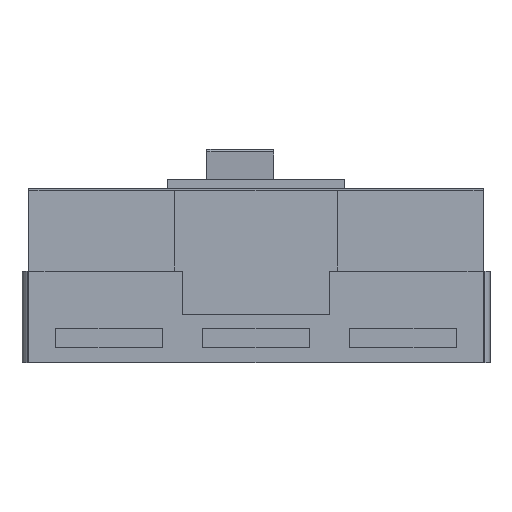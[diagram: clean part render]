
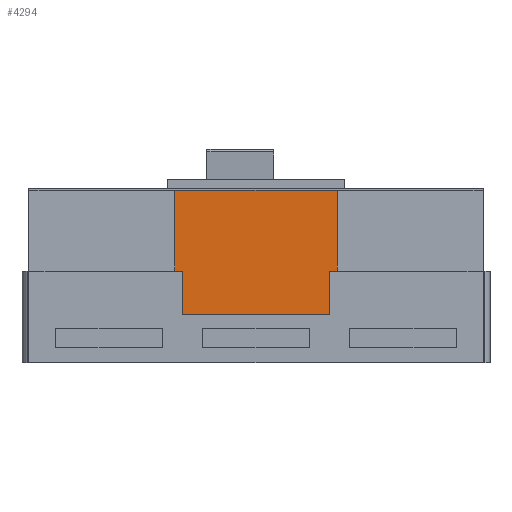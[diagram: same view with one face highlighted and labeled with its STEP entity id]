
A CAD part, front view. The second image highlights one B-rep face of the part: STEP entity #4294.
In plain terms, the highlighted planar face has unit normal (0, -1, 0).
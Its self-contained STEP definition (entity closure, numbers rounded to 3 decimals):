
#19 = EDGE_CURVE ( 'NONE', #3581, #639, #765, .T. ) ;
#26 = VERTEX_POINT ( 'NONE', #1045 ) ;
#131 = EDGE_CURVE ( 'NONE', #239, #4152, #1258, .T. ) ;
#224 = AXIS2_PLACEMENT_3D ( 'NONE', #3107, #1422, #3796 ) ;
#239 = VERTEX_POINT ( 'NONE', #4334 ) ;
#529 = CARTESIAN_POINT ( 'NONE',  ( 143.7, 48.3, 86. ) ) ;
#562 = FACE_OUTER_BOUND ( 'NONE', #2921, .T. ) ;
#619 = DIRECTION ( 'NONE',  ( 0., 0., 1. ) ) ;
#639 = VERTEX_POINT ( 'NONE', #529 ) ;
#659 = CARTESIAN_POINT ( 'NONE',  ( 288.5, 48.3, 161.8 ) ) ;
#718 = ORIENTED_EDGE ( 'NONE', *, *, #2791, .T. ) ;
#748 = VECTOR ( 'NONE', #3433, 1000. ) ;
#765 = LINE ( 'NONE', #1194, #4312 ) ;
#816 = DIRECTION ( 'NONE',  ( -1., 0., 0. ) ) ;
#965 = ORIENTED_EDGE ( 'NONE', *, *, #2696, .F. ) ;
#1045 = CARTESIAN_POINT ( 'NONE',  ( 136.5, 48.3, 161.8 ) ) ;
#1051 = DIRECTION ( 'NONE',  ( 0., 0., 1. ) ) ;
#1194 = CARTESIAN_POINT ( 'NONE',  ( 143.7, 48.3, 45. ) ) ;
#1258 = LINE ( 'NONE', #3012, #3063 ) ;
#1315 = CARTESIAN_POINT ( 'NONE',  ( 281.3, 48.3, 86. ) ) ;
#1346 = LINE ( 'NONE', #1366, #1458 ) ;
#1366 = CARTESIAN_POINT ( 'NONE',  ( 136.5, 48.3, 86. ) ) ;
#1394 = LINE ( 'NONE', #3209, #2182 ) ;
#1422 = DIRECTION ( 'NONE',  ( 0., 1., 0. ) ) ;
#1458 = VECTOR ( 'NONE', #2703, 1000. ) ;
#1540 = DIRECTION ( 'NONE',  ( 1., 0., 0. ) ) ;
#1712 = LINE ( 'NONE', #3406, #3393 ) ;
#1791 = CARTESIAN_POINT ( 'NONE',  ( 288.5, 48.3, 86. ) ) ;
#1879 = CARTESIAN_POINT ( 'NONE',  ( 136.5, 48.3, 86. ) ) ;
#1933 = ORIENTED_EDGE ( 'NONE', *, *, #19, .F. ) ;
#2130 = VERTEX_POINT ( 'NONE', #659 ) ;
#2182 = VECTOR ( 'NONE', #816, 1000. ) ;
#2225 = ORIENTED_EDGE ( 'NONE', *, *, #3697, .F. ) ;
#2231 = LINE ( 'NONE', #3780, #3942 ) ;
#2281 = LINE ( 'NONE', #1879, #3782 ) ;
#2434 = ORIENTED_EDGE ( 'NONE', *, *, #4272, .T. ) ;
#2493 = VERTEX_POINT ( 'NONE', #4430 ) ;
#2519 = ORIENTED_EDGE ( 'NONE', *, *, #3329, .T. ) ;
#2633 = ORIENTED_EDGE ( 'NONE', *, *, #131, .T. ) ;
#2696 = EDGE_CURVE ( 'NONE', #2493, #26, #3585, .T. ) ;
#2703 = DIRECTION ( 'NONE',  ( 1., 0., 0. ) ) ;
#2791 = EDGE_CURVE ( 'NONE', #2493, #639, #1346, .T. ) ;
#2921 = EDGE_LOOP ( 'NONE', ( #718, #1933, #2225, #2633, #3806, #2434, #2519, #965 ) ) ;
#3012 = CARTESIAN_POINT ( 'NONE',  ( 281.3, 48.3, 45. ) ) ;
#3063 = VECTOR ( 'NONE', #619, 1000. ) ;
#3107 = CARTESIAN_POINT ( 'NONE',  ( 136.5, 48.3, -73.489 ) ) ;
#3209 = CARTESIAN_POINT ( 'NONE',  ( 136.5, 48.3, 161.8 ) ) ;
#3228 = VERTEX_POINT ( 'NONE', #1791 ) ;
#3329 = EDGE_CURVE ( 'NONE', #2130, #26, #1394, .T. ) ;
#3393 = VECTOR ( 'NONE', #3760, 1000. ) ;
#3394 = EDGE_CURVE ( 'NONE', #4152, #3228, #2281, .T. ) ;
#3404 = CARTESIAN_POINT ( 'NONE',  ( 136.5, 48.3, -73.489 ) ) ;
#3406 = CARTESIAN_POINT ( 'NONE',  ( 143.7, 48.3, 45. ) ) ;
#3433 = DIRECTION ( 'NONE',  ( 0., 0., 1. ) ) ;
#3442 = PLANE ( 'NONE',  #224 ) ;
#3581 = VERTEX_POINT ( 'NONE', #3996 ) ;
#3585 = LINE ( 'NONE', #3404, #748 ) ;
#3697 = EDGE_CURVE ( 'NONE', #239, #3581, #1712, .T. ) ;
#3760 = DIRECTION ( 'NONE',  ( -1., 0., 0. ) ) ;
#3775 = DIRECTION ( 'NONE',  ( 0., 0., 1. ) ) ;
#3780 = CARTESIAN_POINT ( 'NONE',  ( 288.5, 48.3, -73.489 ) ) ;
#3782 = VECTOR ( 'NONE', #1540, 1000. ) ;
#3796 = DIRECTION ( 'NONE',  ( 0., 0., 1. ) ) ;
#3806 = ORIENTED_EDGE ( 'NONE', *, *, #3394, .T. ) ;
#3942 = VECTOR ( 'NONE', #1051, 1000. ) ;
#3996 = CARTESIAN_POINT ( 'NONE',  ( 143.7, 48.3, 45. ) ) ;
#4152 = VERTEX_POINT ( 'NONE', #1315 ) ;
#4272 = EDGE_CURVE ( 'NONE', #3228, #2130, #2231, .T. ) ;
#4294 = ADVANCED_FACE ( 'NONE', ( #562 ), #3442, .F. ) ;
#4312 = VECTOR ( 'NONE', #3775, 1000. ) ;
#4334 = CARTESIAN_POINT ( 'NONE',  ( 281.3, 48.3, 45. ) ) ;
#4430 = CARTESIAN_POINT ( 'NONE',  ( 136.5, 48.3, 86. ) ) ;
